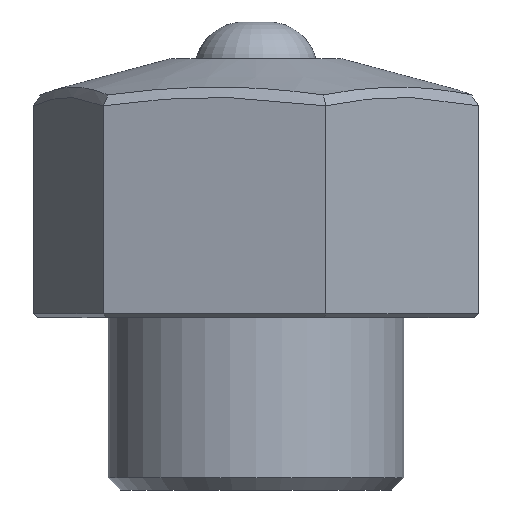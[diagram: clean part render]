
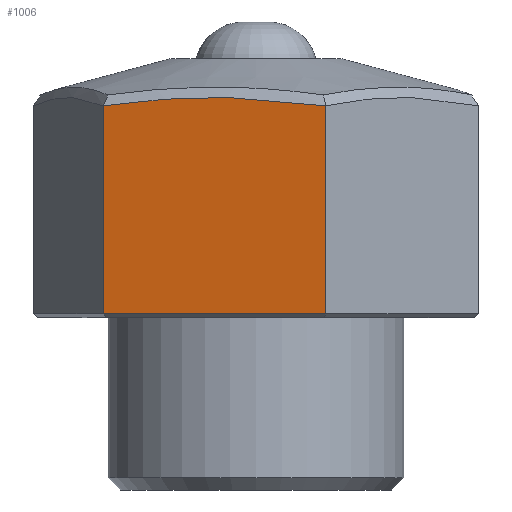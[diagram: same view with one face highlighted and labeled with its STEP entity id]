
A CAD part, front view. The second image highlights one B-rep face of the part: STEP entity #1006.
In plain terms, the highlighted planar face has unit normal (-0.211, -0.978, 0).
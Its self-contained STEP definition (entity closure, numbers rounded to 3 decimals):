
#12 = LINE ( 'NONE', #1818, #426 ) ;
#15 = VERTEX_POINT ( 'NONE', #1976 ) ;
#27 = FACE_OUTER_BOUND ( 'NONE', #1984, .T. ) ;
#32 = CARTESIAN_POINT ( 'NONE',  ( -10.124, -14.186, 31.483 ) ) ;
#41 = CARTESIAN_POINT ( 'NONE',  ( -8.252, -14.589, 31.669 ) ) ;
#54 = CARTESIAN_POINT ( 'NONE',  ( -12.401, -13.695, 31.192 ) ) ;
#119 = CARTESIAN_POINT ( 'NONE',  ( 5.66, -17.587, 31.192 ) ) ;
#125 = EDGE_CURVE ( 'NONE', #1016, #15, #997, .T. ) ;
#134 = B_SPLINE_CURVE_WITH_KNOTS ( 'NONE', 3,
 ( #479, #1137, #1986, #524, #1054, #1695, #225, #1194, #1376, #392, #547, #1201, #2019, #1544, #2009, #382, #1837, #1999, #1678, #887, #729, #1942, #1777, #151, #1181, #843, #1212, #875, #194, #313, #1522, #1665, #537, #972, #371, #1847, #1621, #866, #215, #683, #1340, #41, #710, #1364, #360, #1018, #1042, #1532, #32, #858, #1687, #54 ),
 .UNSPECIFIED., .F., .F.,
 ( 4, 1, 1, 1, 1, 2, 2, 1, 1, 1, 1, 2, 2, 1, 1, 1, 2, 2, 2, 1, 1, 1, 2, 2, 1, 1, 1, 1, 2, 2, 1, 1, 1, 1, 2, 2, 4 ),
 ( 0., 0.062, 0.094, 0.109, 0.117, 0.121, 0.125, 0.187, 0.219, 0.234, 0.242, 0.246, 0.25, 0.312, 0.344, 0.359, 0.367, 0.375, 0.5, 0.562, 0.594, 0.609, 0.617, 0.625, 0.687, 0.719, 0.734, 0.742, 0.746, 0.75, 0.812, 0.844, 0.859, 0.867, 0.871, 0.875, 1. ),
 .UNSPECIFIED. ) ;
#151 = CARTESIAN_POINT ( 'NONE',  ( -1.011, -16.149, 31.831 ) ) ;
#162 = EDGE_CURVE ( 'NONE', #1357, #1142, #12, .T. ) ;
#194 = CARTESIAN_POINT ( 'NONE',  ( -4.946, -15.301, 31.859 ) ) ;
#215 = CARTESIAN_POINT ( 'NONE',  ( -7.789, -14.689, 31.706 ) ) ;
#225 = CARTESIAN_POINT ( 'NONE',  ( 3.526, -17.127, 31.466 ) ) ;
#283 = DIRECTION ( 'NONE',  ( 0.211, 0.978, 0. ) ) ;
#313 = CARTESIAN_POINT ( 'NONE',  ( -5.28, -15.229, 31.848 ) ) ;
#360 = CARTESIAN_POINT ( 'NONE',  ( -9.809, -14.254, 31.518 ) ) ;
#371 = CARTESIAN_POINT ( 'NONE',  ( -6.549, -14.956, 31.792 ) ) ;
#382 = CARTESIAN_POINT ( 'NONE',  ( 1.243, -16.635, 31.691 ) ) ;
#392 = CARTESIAN_POINT ( 'NONE',  ( 3.053, -17.025, 31.52 ) ) ;
#426 = VECTOR ( 'NONE', #1646, 1000. ) ;
#479 = CARTESIAN_POINT ( 'NONE',  ( 5.66, -17.587, 31.192 ) ) ;
#524 = CARTESIAN_POINT ( 'NONE',  ( 4.07, -17.244, 31.402 ) ) ;
#537 = CARTESIAN_POINT ( 'NONE',  ( -5.568, -15.167, 31.837 ) ) ;
#541 = ORIENTED_EDGE ( 'NONE', *, *, #2027, .T. ) ;
#547 = CARTESIAN_POINT ( 'NONE',  ( 2.487, -16.903, 31.58 ) ) ;
#582 = EDGE_CURVE ( 'NONE', #1016, #1357, #134, .T. ) ;
#683 = CARTESIAN_POINT ( 'NONE',  ( -7.837, -14.679, 31.702 ) ) ;
#710 = CARTESIAN_POINT ( 'NONE',  ( -8.81, -14.469, 31.62 ) ) ;
#729 = CARTESIAN_POINT ( 'NONE',  ( -0.735, -16.209, 31.818 ) ) ;
#843 = CARTESIAN_POINT ( 'NONE',  ( -2.578, -15.812, 31.881 ) ) ;
#854 = DIRECTION ( 'NONE',  ( 0., 0., -1. ) ) ;
#858 = CARTESIAN_POINT ( 'NONE',  ( -10.874, -14.024, 31.398 ) ) ;
#866 = CARTESIAN_POINT ( 'NONE',  ( -7.717, -14.704, 31.712 ) ) ;
#872 = CARTESIAN_POINT ( 'NONE',  ( 5.66, -17.587, 35. ) ) ;
#875 = CARTESIAN_POINT ( 'NONE',  ( -4.28, -15.445, 31.876 ) ) ;
#887 = CARTESIAN_POINT ( 'NONE',  ( -0.409, -16.279, 31.802 ) ) ;
#971 = ORIENTED_EDGE ( 'NONE', *, *, #125, .F. ) ;
#972 = CARTESIAN_POINT ( 'NONE',  ( -5.986, -15.077, 31.82 ) ) ;
#997 = LINE ( 'NONE', #872, #1184 ) ;
#1006 = ADVANCED_FACE ( 'NONE', ( #27 ), #1348, .F. ) ;
#1016 = VERTEX_POINT ( 'NONE', #119 ) ;
#1018 = CARTESIAN_POINT ( 'NONE',  ( -9.978, -14.217, 31.499 ) ) ;
#1042 = CARTESIAN_POINT ( 'NONE',  ( -10.05, -14.202, 31.491 ) ) ;
#1052 = CARTESIAN_POINT ( 'NONE',  ( -12.401, -13.695, 31.192 ) ) ;
#1054 = CARTESIAN_POINT ( 'NONE',  ( 3.752, -17.176, 31.44 ) ) ;
#1137 = CARTESIAN_POINT ( 'NONE',  ( 5.278, -17.505, 31.246 ) ) ;
#1142 = VERTEX_POINT ( 'NONE', #1314 ) ;
#1181 = CARTESIAN_POINT ( 'NONE',  ( -1.821, -15.975, 31.865 ) ) ;
#1184 = VECTOR ( 'NONE', #854, 1000. ) ;
#1194 = CARTESIAN_POINT ( 'NONE',  ( 3.481, -17.117, 31.472 ) ) ;
#1201 = CARTESIAN_POINT ( 'NONE',  ( 1.838, -16.763, 31.64 ) ) ;
#1212 = CARTESIAN_POINT ( 'NONE',  ( -3.712, -15.567, 31.882 ) ) ;
#1307 = ORIENTED_EDGE ( 'NONE', *, *, #582, .T. ) ;
#1314 = CARTESIAN_POINT ( 'NONE',  ( -12.401, -13.695, 14.3 ) ) ;
#1340 = CARTESIAN_POINT ( 'NONE',  ( -7.862, -14.673, 31.7 ) ) ;
#1348 = PLANE ( 'NONE',  #2038 ) ;
#1357 = VERTEX_POINT ( 'NONE', #1052 ) ;
#1364 = CARTESIAN_POINT ( 'NONE',  ( -9.474, -14.326, 31.553 ) ) ;
#1376 = CARTESIAN_POINT ( 'NONE',  ( 3.46, -17.113, 31.474 ) ) ;
#1454 = DIRECTION ( 'NONE',  ( -0.978, 0.211, 0. ) ) ;
#1522 = CARTESIAN_POINT ( 'NONE',  ( -5.423, -15.199, 31.843 ) ) ;
#1532 = CARTESIAN_POINT ( 'NONE',  ( -10.098, -14.191, 31.485 ) ) ;
#1544 = CARTESIAN_POINT ( 'NONE',  ( 1.357, -16.66, 31.681 ) ) ;
#1545 = VECTOR ( 'NONE', #1682, 1000. ) ;
#1586 = CARTESIAN_POINT ( 'NONE',  ( -12.401, -13.695, 35. ) ) ;
#1621 = CARTESIAN_POINT ( 'NONE',  ( -7.549, -14.741, 31.724 ) ) ;
#1646 = DIRECTION ( 'NONE',  ( 0., 0., -1. ) ) ;
#1665 = CARTESIAN_POINT ( 'NONE',  ( -5.519, -15.178, 31.839 ) ) ;
#1670 = CARTESIAN_POINT ( 'NONE',  ( -12.401, -13.695, 14.3 ) ) ;
#1678 = CARTESIAN_POINT ( 'NONE',  ( 0.246, -16.42, 31.765 ) ) ;
#1682 = DIRECTION ( 'NONE',  ( 0.978, -0.211, 0. ) ) ;
#1687 = CARTESIAN_POINT ( 'NONE',  ( -11.626, -13.862, 31.302 ) ) ;
#1695 = CARTESIAN_POINT ( 'NONE',  ( 3.593, -17.141, 31.459 ) ) ;
#1777 = CARTESIAN_POINT ( 'NONE',  ( -0.966, -16.159, 31.829 ) ) ;
#1818 = CARTESIAN_POINT ( 'NONE',  ( -12.401, -13.695, 35. ) ) ;
#1822 = ORIENTED_EDGE ( 'NONE', *, *, #162, .T. ) ;
#1837 = CARTESIAN_POINT ( 'NONE',  ( 1.221, -16.63, 31.692 ) ) ;
#1847 = CARTESIAN_POINT ( 'NONE',  ( -7.214, -14.813, 31.749 ) ) ;
#1942 = CARTESIAN_POINT ( 'NONE',  ( -0.874, -16.179, 31.825 ) ) ;
#1956 = LINE ( 'NONE', #1670, #1545 ) ;
#1976 = CARTESIAN_POINT ( 'NONE',  ( 5.66, -17.587, 14.3 ) ) ;
#1984 = EDGE_LOOP ( 'NONE', ( #971, #1307, #1822, #541 ) ) ;
#1986 = CARTESIAN_POINT ( 'NONE',  ( 4.714, -17.383, 31.322 ) ) ;
#1999 = CARTESIAN_POINT ( 'NONE',  ( 0.815, -16.543, 31.725 ) ) ;
#2009 = CARTESIAN_POINT ( 'NONE',  ( 1.288, -16.645, 31.687 ) ) ;
#2019 = CARTESIAN_POINT ( 'NONE',  ( 1.517, -16.694, 31.668 ) ) ;
#2027 = EDGE_CURVE ( 'NONE', #1142, #15, #1956, .T. ) ;
#2038 = AXIS2_PLACEMENT_3D ( 'NONE', #1586, #283, #1454 ) ;
